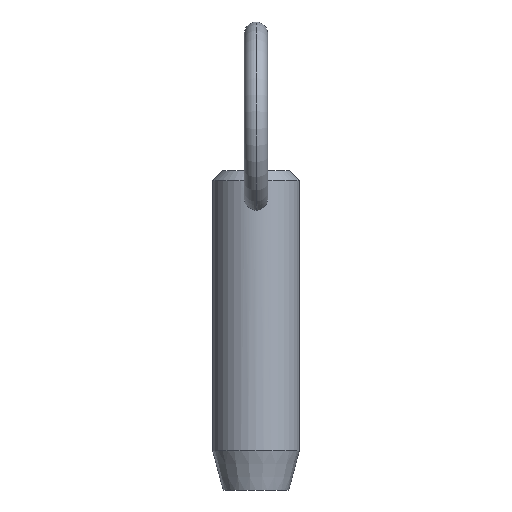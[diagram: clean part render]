
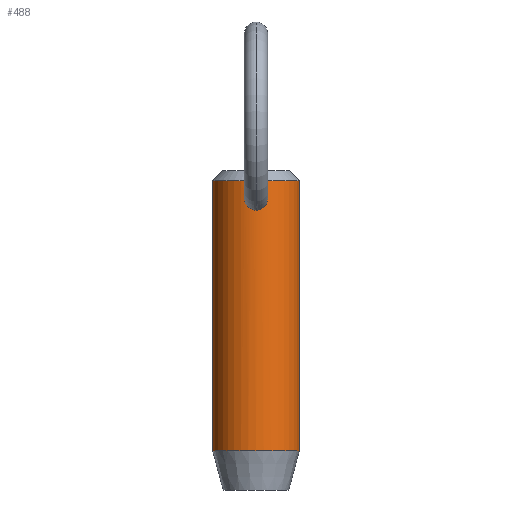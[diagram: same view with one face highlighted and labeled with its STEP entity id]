
A CAD part, front view. The second image highlights one B-rep face of the part: STEP entity #488.
In plain terms, the highlighted cylindrical face has radius 5.55 mm (diameter 11.1 mm), a partial arc.
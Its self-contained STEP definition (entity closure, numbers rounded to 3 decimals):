
#11 = CARTESIAN_POINT ( 'NONE',  ( 0.786, -5.497, 24.757 ) ) ;
#15 = DIRECTION ( 'NONE',  ( 0., 0., -1. ) ) ;
#27 = CARTESIAN_POINT ( 'NONE',  ( -1.054, -5.449, 22.004 ) ) ;
#38 = DIRECTION ( 'NONE',  ( 0., 0., -1. ) ) ;
#43 = CARTESIAN_POINT ( 'NONE',  ( 1.194, -5.422, 24.271 ) ) ;
#45 = CARTESIAN_POINT ( 'NONE',  ( 0.417, -5.535, 24.967 ) ) ;
#49 = VERTEX_POINT ( 'NONE', #248 ) ;
#52 = EDGE_CURVE ( 'NONE', #423, #102, #304, .T. ) ;
#57 = AXIS2_PLACEMENT_3D ( 'NONE', #110, #194, #238 ) ;
#60 = CARTESIAN_POINT ( 'NONE',  ( -0.523, -5.526, 21.666 ) ) ;
#62 = CARTESIAN_POINT ( 'NONE',  ( -0.976, -5.464, 21.931 ) ) ;
#78 = CARTESIAN_POINT ( 'NONE',  ( 1.455, -5.356, 22.738 ) ) ;
#81 = CARTESIAN_POINT ( 'NONE',  ( 0.515, -5.527, 24.922 ) ) ;
#82 = CARTESIAN_POINT ( 'NONE',  ( 1.055, -5.449, 22.005 ) ) ;
#83 = CARTESIAN_POINT ( 'NONE',  ( 0.523, -5.526, 21.666 ) ) ;
#85 = EDGE_CURVE ( 'NONE', #371, #201, #427, .T. ) ;
#95 = AXIS2_PLACEMENT_3D ( 'NONE', #148, #106, #433 ) ;
#102 = VERTEX_POINT ( 'NONE', #262 ) ;
#106 = DIRECTION ( 'NONE',  ( 0., 0., 1. ) ) ;
#107 = CARTESIAN_POINT ( 'NONE',  ( -1.477, -5.35, 22.842 ) ) ;
#110 = CARTESIAN_POINT ( 'NONE',  ( 0., 0., 20.3 ) ) ;
#115 = LINE ( 'NONE', #153, #195 ) ;
#117 = ORIENTED_EDGE ( 'NONE', *, *, #481, .T. ) ;
#120 = CARTESIAN_POINT ( 'NONE',  ( 0.106, -5.55, 25.045 ) ) ;
#121 = CARTESIAN_POINT ( 'NONE',  ( 5.55, 0., 20.3 ) ) ;
#127 = CARTESIAN_POINT ( 'NONE',  ( 0.213, -5.547, 21.588 ) ) ;
#142 = AXIS2_PLACEMENT_3D ( 'NONE', #216, #15, #212 ) ;
#148 = CARTESIAN_POINT ( 'NONE',  ( 0., 0., -9.2 ) ) ;
#153 = CARTESIAN_POINT ( 'NONE',  ( -5.55, 0., 20.3 ) ) ;
#164 = CARTESIAN_POINT ( 'NONE',  ( 1.503, -5.343, 23.159 ) ) ;
#168 = CARTESIAN_POINT ( 'NONE',  ( 1.5, -5.343, 23.054 ) ) ;
#169 = CARTESIAN_POINT ( 'NONE',  ( 1.486, -5.347, 23.474 ) ) ;
#170 = CARTESIAN_POINT ( 'NONE',  ( 0., -5.55, 21.577 ) ) ;
#172 = VECTOR ( 'NONE', #38, 1000. ) ;
#184 = B_SPLINE_CURVE_WITH_KNOTS ( 'NONE', 3,
 ( #480, #239, #356, #231, #60, #398, #478, #62, #27, #400, #315, #236, #107, #279, #396, #321, #435, #192, #397, #484, #232, #519, #354, #482, #197, #278 ),
 .UNSPECIFIED., .F., .F.,
 ( 4, 2, 2, 2, 2, 2, 2, 2, 2, 2, 2, 2, 4 ),
 ( 0.01, 0.01, 0.01, 0.011, 0.011, 0.012, 0.012, 0.012, 0.013, 0.013, 0.014, 0.014, 0.015 ),
 .UNSPECIFIED. ) ;
#192 = CARTESIAN_POINT ( 'NONE',  ( -1.294, -5.398, 24.086 ) ) ;
#193 = CARTESIAN_POINT ( 'NONE',  ( 0., -5.55, 25.045 ) ) ;
#194 = DIRECTION ( 'NONE',  ( 0., 0., -1. ) ) ;
#195 = VECTOR ( 'NONE', #313, 1000. ) ;
#196 = ORIENTED_EDGE ( 'NONE', *, *, #52, .T. ) ;
#197 = CARTESIAN_POINT ( 'NONE',  ( -0.106, -5.55, 25.045 ) ) ;
#201 = VERTEX_POINT ( 'NONE', #511 ) ;
#203 = CARTESIAN_POINT ( 'NONE',  ( 0.941, -5.471, 24.607 ) ) ;
#208 = FACE_BOUND ( 'NONE', #439, .T. ) ;
#212 = DIRECTION ( 'NONE',  ( 1., 0., 0. ) ) ;
#216 = CARTESIAN_POINT ( 'NONE',  ( 0., 0., 25.35 ) ) ;
#221 = CARTESIAN_POINT ( 'NONE',  ( 5.55, 0., 25.35 ) ) ;
#231 = CARTESIAN_POINT ( 'NONE',  ( -0.42, -5.535, 21.632 ) ) ;
#232 = CARTESIAN_POINT ( 'NONE',  ( -0.785, -5.497, 24.758 ) ) ;
#234 = FACE_OUTER_BOUND ( 'NONE', #447, .T. ) ;
#236 = CARTESIAN_POINT ( 'NONE',  ( -1.455, -5.356, 22.736 ) ) ;
#238 = DIRECTION ( 'NONE',  ( -1., 0., 0. ) ) ;
#239 = CARTESIAN_POINT ( 'NONE',  ( -0.107, -5.55, 21.577 ) ) ;
#248 = CARTESIAN_POINT ( 'NONE',  ( 5.55, 0., -9.2 ) ) ;
#262 = CARTESIAN_POINT ( 'NONE',  ( 0., -5.55, 21.577 ) ) ;
#278 = CARTESIAN_POINT ( 'NONE',  ( 0., -5.55, 25.045 ) ) ;
#279 = CARTESIAN_POINT ( 'NONE',  ( -1.5, -5.343, 23.053 ) ) ;
#297 = CARTESIAN_POINT ( 'NONE',  ( 1.44, -5.36, 23.686 ) ) ;
#304 = B_SPLINE_CURVE_WITH_KNOTS ( 'NONE', 3,
 ( #457, #120, #333, #45, #81, #11, #203, #43, #410, #297, #169, #164, #168, #335, #78, #367, #450, #82, #491, #373, #497, #83, #376, #127, #414, #170 ),
 .UNSPECIFIED., .F., .F.,
 ( 4, 2, 2, 2, 2, 2, 2, 2, 2, 2, 2, 2, 4 ),
 ( 0.005, 0.005, 0.005, 0.006, 0.006, 0.007, 0.007, 0.008, 0.008, 0.009, 0.009, 0.009, 0.01 ),
 .UNSPECIFIED. ) ;
#309 = ORIENTED_EDGE ( 'NONE', *, *, #417, .T. ) ;
#313 = DIRECTION ( 'NONE',  ( 0., 0., -1. ) ) ;
#314 = VERTEX_POINT ( 'NONE', #469 ) ;
#315 = CARTESIAN_POINT ( 'NONE',  ( -1.362, -5.381, 22.432 ) ) ;
#321 = CARTESIAN_POINT ( 'NONE',  ( -1.485, -5.348, 23.479 ) ) ;
#333 = CARTESIAN_POINT ( 'NONE',  ( 0.214, -5.547, 25.028 ) ) ;
#335 = CARTESIAN_POINT ( 'NONE',  ( 1.477, -5.35, 22.844 ) ) ;
#342 = ORIENTED_EDGE ( 'NONE', *, *, #426, .T. ) ;
#351 = ORIENTED_EDGE ( 'NONE', *, *, #85, .T. ) ;
#354 = CARTESIAN_POINT ( 'NONE',  ( -0.416, -5.535, 24.967 ) ) ;
#356 = CARTESIAN_POINT ( 'NONE',  ( -0.212, -5.547, 21.588 ) ) ;
#362 = LINE ( 'NONE', #121, #172 ) ;
#367 = CARTESIAN_POINT ( 'NONE',  ( 1.363, -5.38, 22.434 ) ) ;
#371 = VERTEX_POINT ( 'NONE', #221 ) ;
#373 = CARTESIAN_POINT ( 'NONE',  ( 0.807, -5.492, 21.806 ) ) ;
#376 = CARTESIAN_POINT ( 'NONE',  ( 0.421, -5.535, 21.632 ) ) ;
#396 = CARTESIAN_POINT ( 'NONE',  ( -1.503, -5.343, 23.159 ) ) ;
#397 = CARTESIAN_POINT ( 'NONE',  ( -1.195, -5.421, 24.271 ) ) ;
#398 = CARTESIAN_POINT ( 'NONE',  ( -0.716, -5.504, 21.752 ) ) ;
#400 = CARTESIAN_POINT ( 'NONE',  ( -1.26, -5.407, 22.242 ) ) ;
#410 = CARTESIAN_POINT ( 'NONE',  ( 1.295, -5.397, 24.082 ) ) ;
#413 = CIRCLE ( 'NONE', #95, 5.55 ) ;
#414 = CARTESIAN_POINT ( 'NONE',  ( 0.107, -5.55, 21.577 ) ) ;
#417 = EDGE_CURVE ( 'NONE', #314, #49, #413, .T. ) ;
#423 = VERTEX_POINT ( 'NONE', #193 ) ;
#426 = EDGE_CURVE ( 'NONE', #102, #423, #184, .T. ) ;
#427 = CIRCLE ( 'NONE', #142, 5.55 ) ;
#433 = DIRECTION ( 'NONE',  ( -1., 0., 0. ) ) ;
#435 = CARTESIAN_POINT ( 'NONE',  ( -1.44, -5.36, 23.687 ) ) ;
#439 = EDGE_LOOP ( 'NONE', ( #196, #342 ) ) ;
#447 = EDGE_LOOP ( 'NONE', ( #494, #351, #117, #309 ) ) ;
#450 = CARTESIAN_POINT ( 'NONE',  ( 1.26, -5.407, 22.243 ) ) ;
#457 = CARTESIAN_POINT ( 'NONE',  ( 0., -5.55, 25.045 ) ) ;
#469 = CARTESIAN_POINT ( 'NONE',  ( -5.55, 0., -9.2 ) ) ;
#478 = CARTESIAN_POINT ( 'NONE',  ( -0.807, -5.492, 21.805 ) ) ;
#480 = CARTESIAN_POINT ( 'NONE',  ( 0., -5.55, 21.577 ) ) ;
#481 = EDGE_CURVE ( 'NONE', #201, #314, #115, .T. ) ;
#482 = CARTESIAN_POINT ( 'NONE',  ( -0.211, -5.547, 25.029 ) ) ;
#484 = CARTESIAN_POINT ( 'NONE',  ( -0.939, -5.472, 24.61 ) ) ;
#488 = ADVANCED_FACE ( 'NONE', ( #234, #208 ), #509, .T. ) ;
#491 = CARTESIAN_POINT ( 'NONE',  ( 0.977, -5.464, 21.932 ) ) ;
#494 = ORIENTED_EDGE ( 'NONE', *, *, #508, .F. ) ;
#497 = CARTESIAN_POINT ( 'NONE',  ( 0.716, -5.504, 21.752 ) ) ;
#508 = EDGE_CURVE ( 'NONE', #371, #49, #362, .T. ) ;
#509 = CYLINDRICAL_SURFACE ( 'NONE', #57, 5.55 ) ;
#511 = CARTESIAN_POINT ( 'NONE',  ( -5.55, 0., 25.35 ) ) ;
#519 = CARTESIAN_POINT ( 'NONE',  ( -0.513, -5.527, 24.923 ) ) ;
